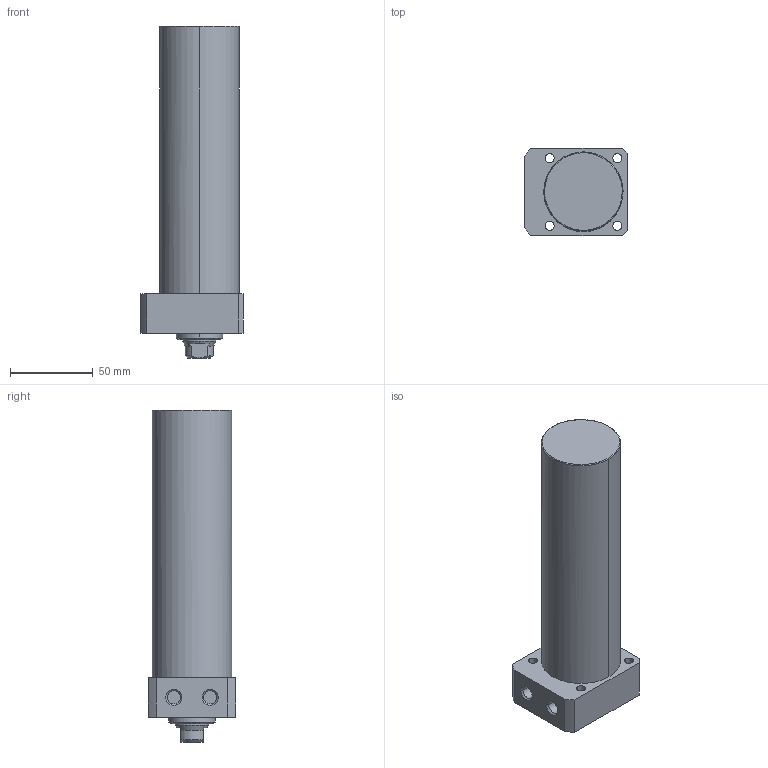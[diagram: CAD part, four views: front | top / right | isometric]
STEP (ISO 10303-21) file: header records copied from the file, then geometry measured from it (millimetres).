
FILE_DESCRIPTION((' '),'2;1');
FILE_NAME( 'TLLR-048CA-135.STEP.stp', '2025-10-24T16:34:32', (' '), ('--- Datakit www.datakit.com---'), ' Datakit CrossCadWare V2024.1 Dec 21 2023', 'Mastercam 2025', ' ');
FILE_SCHEMA(('AUTOMOTIVE_DESIGN { 1 0 10303 214 1 1 1 1 }'));
Length unit declared in the file: millimetre
Products named in the file (1): TLLR-048CA-135
Bounding box: 62 x 53 x 201 mm (x, y, z)
Volume: 371498.4 mm3; surface area: 39792.5 mm2
Topology: 1 solids, 1 shells, 63 faces, 177 edges, 122 vertices
Faces by surface type: cylinder 28, plane 19, cone 14, torus 2
Entity records: 2172 total; most frequent: CARTESIAN_POINT 409, DIRECTION 400, ORIENTED_EDGE 350, EDGE_CURVE 175, AXIS2_PLACEMENT_3D 169, VERTEX_POINT 122, CIRCLE 105, EDGE_LOOP 79
